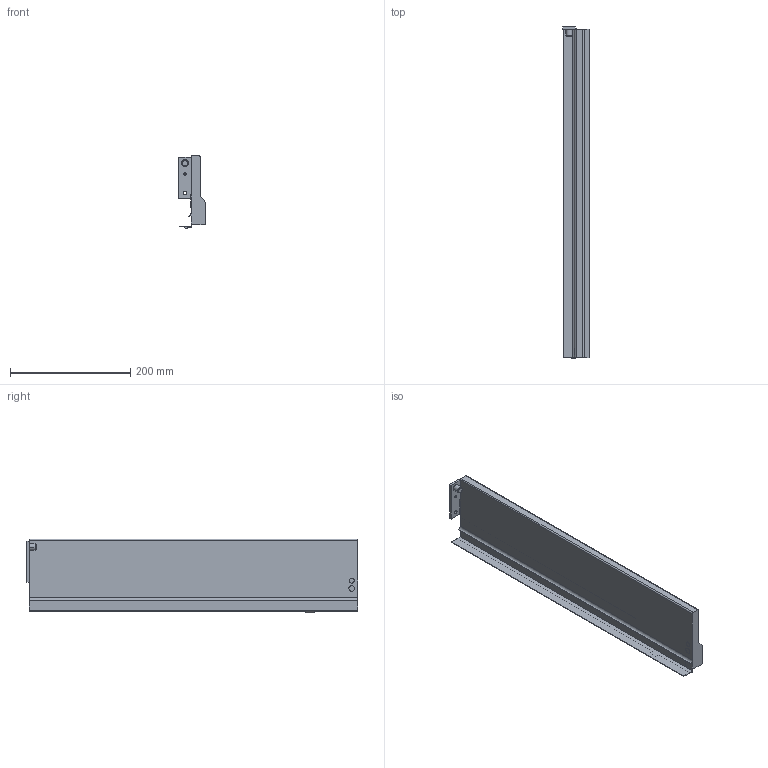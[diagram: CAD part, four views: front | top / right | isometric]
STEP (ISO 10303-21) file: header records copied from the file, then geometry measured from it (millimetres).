
FILE_DESCRIPTION (( 'STEP AP214' ), '1' );
FILE_NAME ('_IMOS_NOVA-Pro_Dekor-H122_CL_NL550_RE.step', '2010-07-06T09:36:00', ( 'grass' ), ( '' ), 'SwSTEP 2.0', 'SolidWorks 2009', '' );
FILE_SCHEMA (( 'AUTOMOTIVE_DESIGN' ));
Length unit declared in the file: millimetre
Products named in the file (1): _IMOS_NOVA-Pro_Dekor-H122_CL_NL550_RE
Bounding box: 44.3 x 552.7 x 122.49 mm (x, y, z)
Volume: 748563.4 mm3; surface area: 226219.1 mm2
Topology: 1 solids, 1 shells, 73 faces, 194 edges, 128 vertices
Faces by surface type: plane 42, cylinder 26, cone 4, bspline 1
Entity records: 2325 total; most frequent: CARTESIAN_POINT 417, DIRECTION 394, ORIENTED_EDGE 388, EDGE_CURVE 194, VECTOR 136, LINE 136, AXIS2_PLACEMENT_3D 129, VERTEX_POINT 128
